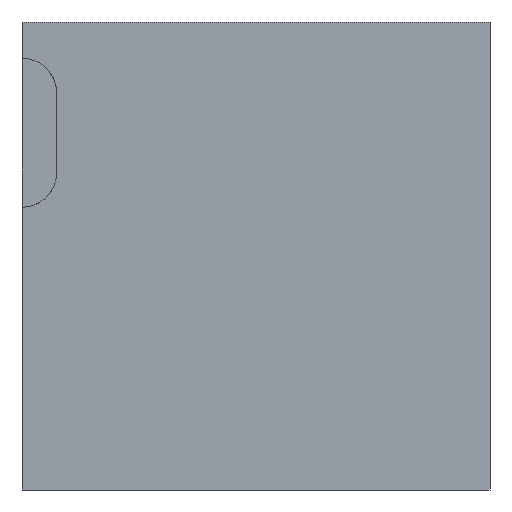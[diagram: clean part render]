
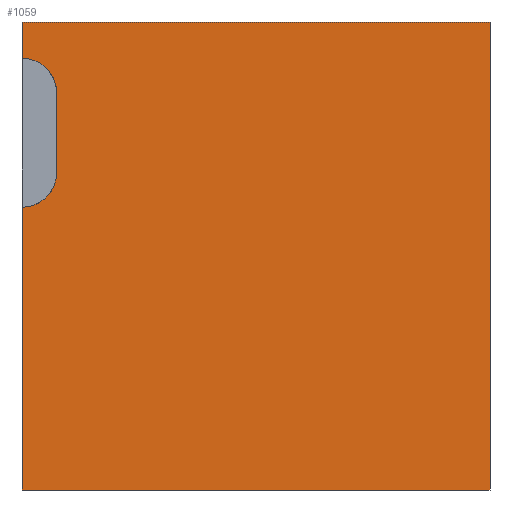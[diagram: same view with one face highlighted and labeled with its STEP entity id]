
A CAD part, left-side view. The second image highlights one B-rep face of the part: STEP entity #1059.
In plain terms, the highlighted planar face has unit normal (-1, 0, 0).
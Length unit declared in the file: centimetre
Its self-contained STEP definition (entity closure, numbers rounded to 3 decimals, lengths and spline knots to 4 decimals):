
#6 = CARTESIAN_POINT ( 'NONE',  ( 0., 926.0158, 848.3471 ) ) ;
#10 = EDGE_CURVE ( 'NONE', #658, #1549, #1110, .T. ) ;
#41 = EDGE_CURVE ( 'NONE', #483, #1416, #304, .T. ) ;
#63 = VECTOR ( 'NONE', #400, 100. ) ;
#134 = LINE ( 'NONE', #665, #208 ) ;
#200 = CIRCLE ( 'NONE', #323, 73.9842 ) ;
#208 = VECTOR ( 'NONE', #1397, 100. ) ;
#252 = DIRECTION ( 'NONE',  ( 0., 0., -1. ) ) ;
#304 = CIRCLE ( 'NONE', #1785, 73.9842 ) ;
#323 = AXIS2_PLACEMENT_3D ( 'NONE', #1285, #1623, #1615 ) ;
#353 = ORIENTED_EDGE ( 'NONE', *, *, #864, .F. ) ;
#383 = CARTESIAN_POINT ( 'NONE',  ( 0., 1000., 0. ) ) ;
#400 = DIRECTION ( 'NONE',  ( 0., 0., -1. ) ) ;
#413 = PLANE ( 'NONE',  #1646 ) ;
#441 = CARTESIAN_POINT ( 'NONE',  ( 0., 926.0158, 678.2087 ) ) ;
#477 = DIRECTION ( 'NONE',  ( 0., -1., 0. ) ) ;
#482 = EDGE_CURVE ( 'NONE', #1816, #483, #1550, .T. ) ;
#483 = VERTEX_POINT ( 'NONE', #6 ) ;
#488 = CARTESIAN_POINT ( 'NONE',  ( 0., 1000., 0. ) ) ;
#490 = CARTESIAN_POINT ( 'NONE',  ( 0., 1000., 848.3471 ) ) ;
#633 = VECTOR ( 'NONE', #677, 100. ) ;
#658 = VERTEX_POINT ( 'NONE', #1045 ) ;
#665 = CARTESIAN_POINT ( 'NONE',  ( 0., 1000., 1000. ) ) ;
#677 = DIRECTION ( 'NONE',  ( 0., 0., -1. ) ) ;
#745 = ORIENTED_EDGE ( 'NONE', *, *, #10, .T. ) ;
#755 = EDGE_CURVE ( 'NONE', #1549, #1307, #1806, .T. ) ;
#785 = ORIENTED_EDGE ( 'NONE', *, *, #1005, .F. ) ;
#864 = EDGE_CURVE ( 'NONE', #1394, #1307, #979, .T. ) ;
#872 = DIRECTION ( 'NONE',  ( 0., 0., 1. ) ) ;
#888 = ORIENTED_EDGE ( 'NONE', *, *, #482, .F. ) ;
#896 = LINE ( 'NONE', #1482, #1418 ) ;
#947 = DIRECTION ( 'NONE',  ( 0., -1., 0. ) ) ;
#965 = ORIENTED_EDGE ( 'NONE', *, *, #755, .T. ) ;
#979 = LINE ( 'NONE', #1112, #633 ) ;
#989 = CARTESIAN_POINT ( 'NONE',  ( 0., 1000., 1000. ) ) ;
#1005 = EDGE_CURVE ( 'NONE', #1054, #1394, #896, .T. ) ;
#1045 = CARTESIAN_POINT ( 'NONE',  ( 0., 1000., 604.2244 ) ) ;
#1054 = VERTEX_POINT ( 'NONE', #1256 ) ;
#1059 = ADVANCED_FACE ( 'NONE', ( #1710 ), #413, .F. ) ;
#1110 = LINE ( 'NONE', #1698, #63 ) ;
#1112 = CARTESIAN_POINT ( 'NONE',  ( 0., 0., 1000. ) ) ;
#1150 = ORIENTED_EDGE ( 'NONE', *, *, #1360, .F. ) ;
#1184 = VECTOR ( 'NONE', #1860, 100. ) ;
#1188 = EDGE_CURVE ( 'NONE', #1054, #1416, #134, .T. ) ;
#1241 = VECTOR ( 'NONE', #947, 100. ) ;
#1246 = ORIENTED_EDGE ( 'NONE', *, *, #1188, .T. ) ;
#1256 = CARTESIAN_POINT ( 'NONE',  ( 0., 1000., 1000. ) ) ;
#1285 = CARTESIAN_POINT ( 'NONE',  ( 0., 1000., 678.2087 ) ) ;
#1307 = VERTEX_POINT ( 'NONE', #1417 ) ;
#1360 = EDGE_CURVE ( 'NONE', #658, #1816, #200, .T. ) ;
#1382 = EDGE_LOOP ( 'NONE', ( #888, #1150, #745, #965, #353, #785, #1246, #1732 ) ) ;
#1394 = VERTEX_POINT ( 'NONE', #1754 ) ;
#1397 = DIRECTION ( 'NONE',  ( 0., 0., -1. ) ) ;
#1416 = VERTEX_POINT ( 'NONE', #1598 ) ;
#1417 = CARTESIAN_POINT ( 'NONE',  ( 0., 0., 0. ) ) ;
#1418 = VECTOR ( 'NONE', #477, 100. ) ;
#1482 = CARTESIAN_POINT ( 'NONE',  ( 0., 1000., 1000. ) ) ;
#1549 = VERTEX_POINT ( 'NONE', #488 ) ;
#1550 = LINE ( 'NONE', #1836, #1184 ) ;
#1584 = DIRECTION ( 'NONE',  ( 1., 0., 0. ) ) ;
#1598 = CARTESIAN_POINT ( 'NONE',  ( 0., 1000., 922.3314 ) ) ;
#1615 = DIRECTION ( 'NONE',  ( 0., 0., 1. ) ) ;
#1623 = DIRECTION ( 'NONE',  ( -1., 0., 0. ) ) ;
#1637 = DIRECTION ( 'NONE',  ( -1., 0., 0. ) ) ;
#1646 = AXIS2_PLACEMENT_3D ( 'NONE', #989, #1584, #252 ) ;
#1698 = CARTESIAN_POINT ( 'NONE',  ( 0., 1000., 1000. ) ) ;
#1710 = FACE_OUTER_BOUND ( 'NONE', #1382, .T. ) ;
#1732 = ORIENTED_EDGE ( 'NONE', *, *, #41, .F. ) ;
#1754 = CARTESIAN_POINT ( 'NONE',  ( 0., 0., 1000. ) ) ;
#1785 = AXIS2_PLACEMENT_3D ( 'NONE', #490, #1637, #872 ) ;
#1806 = LINE ( 'NONE', #383, #1241 ) ;
#1816 = VERTEX_POINT ( 'NONE', #441 ) ;
#1836 = CARTESIAN_POINT ( 'NONE',  ( 0., 926.0158, 678.2087 ) ) ;
#1860 = DIRECTION ( 'NONE',  ( 0., 0., 1. ) ) ;
